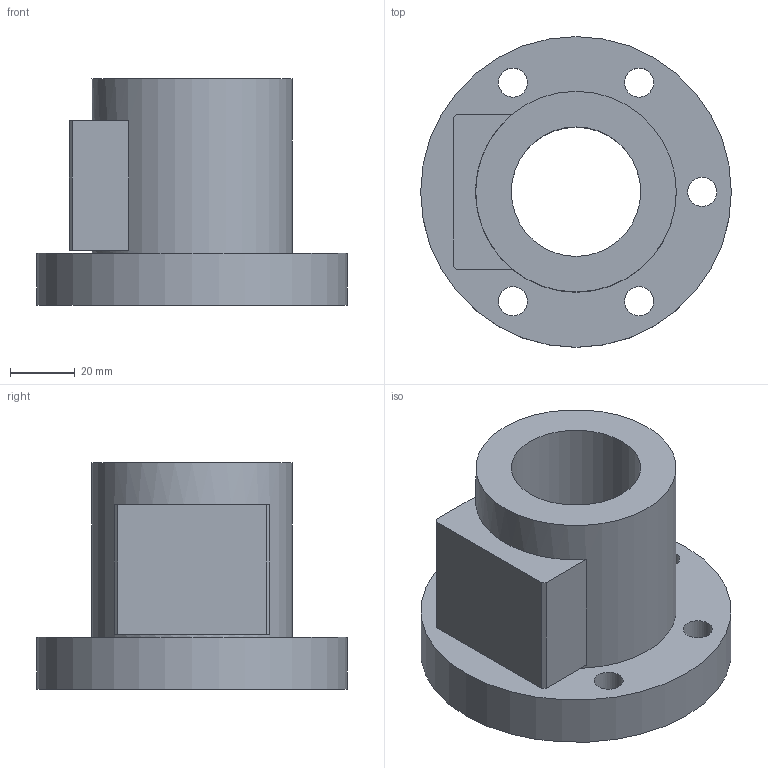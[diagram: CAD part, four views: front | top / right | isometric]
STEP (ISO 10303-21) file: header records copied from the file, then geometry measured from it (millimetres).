
FILE_DESCRIPTION(/* description */ (''),/* implementation_level */ '2;1');
FILE_NAME(/* name */ '40-8C1',/* time_stamp */ '2006-07-31T10:08:07+08:00',/* author */ (''),/* organization */ (''),/* preprocessor_version */ 'ST-DEVELOPER v9',/* originating_system */ 'UGS - NX 4.0',/* authorisation */ '');
FILE_SCHEMA (('CONFIG_CONTROL_DESIGN'));
Length unit declared in the file: millimetre
Products named in the file (1): 40-8C1
Bounding box: 96 x 96 x 70 mm (x, y, z)
Volume: 201996 mm3; surface area: 40546.4 mm2
Topology: 1 solids, 1 shells, 28 faces, 61 edges, 42 vertices
Faces by surface type: plane 15, cylinder 13
Full cylindrical faces by diameter (mm): 9 x5, 14 x5, 40 x1, 62 x1, 96 x1
Entity records: 794 total; most frequent: DIRECTION 130, CARTESIAN_POINT 111, ORIENTED_EDGE 88, EDGE_LOOP 60, AXIS2_PLACEMENT_3D 57, FACE_BOUND 45, EDGE_CURVE 44, VERTEX_POINT 38
